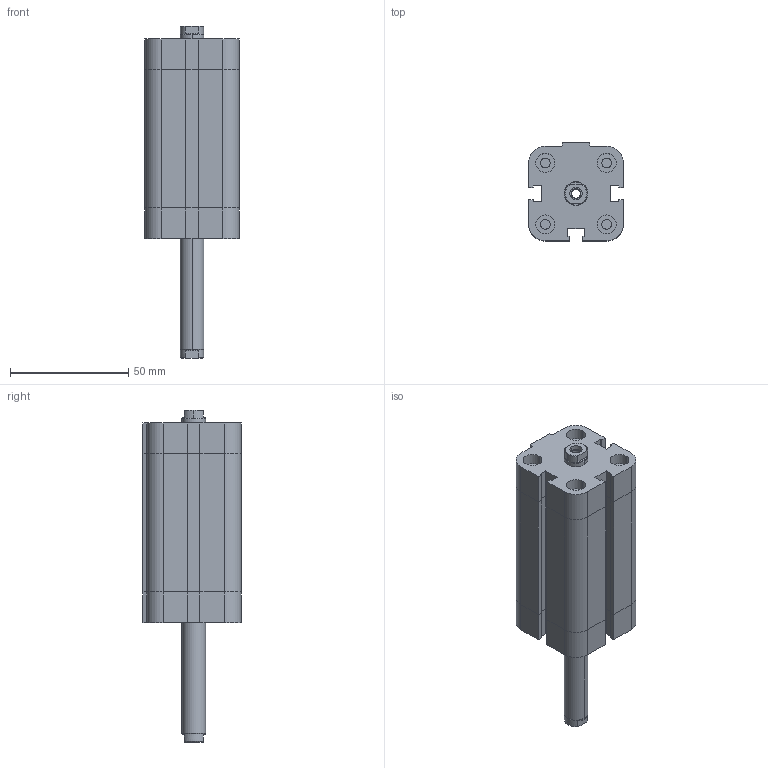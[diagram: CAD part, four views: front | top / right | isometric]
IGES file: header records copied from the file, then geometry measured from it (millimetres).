
Global section: file name: No Iges File Name specified; native system: Autodesk Inventor 2009; preprocessor: AutoDesk Inventor Iges Exporter R2009; author: maffial1; date: 20090420.201201; units: millimetre
Bounding box: 40 x 41.5 x 140.5 mm (x, y, z)
Volume: 123707.6 mm3; surface area: 30573.2 mm2
Topology: 2 solids, 2 shells, 204 faces, 456 edges, 278 vertices
Faces by surface type: plane 114, bspline 44, revolution 20, cylinder 18, cone 8
